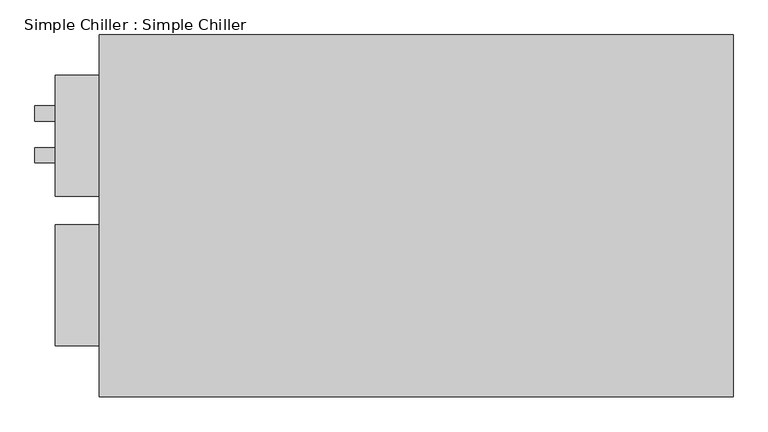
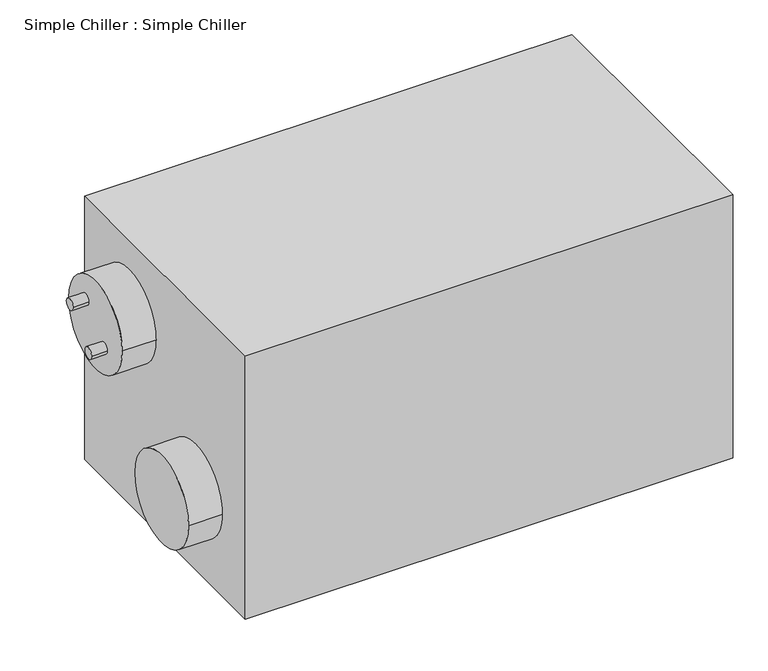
"""IFC4 building model written with IfcOpenShell, lengths in millimetres: proxy geometry, Simple Chiller : Simple Chiller."""

from ifc_helpers import new_model, si_unit, point, frame, frame_2d, origin, origin_with_axes, place, context, project, spatial, polyline, circle_curve, trimmed, segment, composite_curve, outline, extrude, source, transform, mapped, element, save


def simple_chiller_simple_chiller_1b9d3f8d(model_context):
    return source(origin(), model_context, "Body", "SweptSolid", [
        extrude(outline(composite_curve([segment(trimmed(circle_curve(frame_2d((477.2564063, 478.2147433)), 12.7), [point((464.5564063, 478.2147433))], [point((489.9564063, 478.2147433))], False, "CARTESIAN"), True, "CONTINUOUS"), segment(trimmed(circle_curve(frame_2d((477.2564063, 478.2147433)), 12.7), [point((489.9564063, 478.2147433))], [point((464.5564063, 478.2147433))], False, "CARTESIAN"), True, "CONTINUOUS")], self_intersect=False)), frame((-108.7138444, 0.0, 0.0), z_axis=(1.0, 0.0, 0.0), x_axis=(0.0, 1.0, 0.0)), (0.0, 0.0, 1.0), 34.5624514),
        extrude(outline(composite_curve([segment(trimmed(circle_curve(frame_2d((406.7838247, 407.7421617)), 12.7), [point((394.0838247, 407.7421617))], [point((419.4838247, 407.7421617))], False, "CARTESIAN"), True, "CONTINUOUS"), segment(trimmed(circle_curve(frame_2d((406.7838247, 407.7421617)), 12.7), [point((419.4838247, 407.7421617))], [point((394.0838247, 407.7421617))], False, "CARTESIAN"), True, "CONTINUOUS")], self_intersect=False)), frame((-108.7138444, 0.0, 0.0), z_axis=(1.0, 0.0, 0.0), x_axis=(0.0, 1.0, 0.0)), (0.0, 0.0, 1.0), 34.5624514),
        extrude(outline(composite_curve([segment(trimmed(circle_curve(frame_2d((439.7612903, 441.6803044)), 101.6), [point((338.1612903, 441.6803044))], [point((541.3612903, 441.6803044))], False, "CARTESIAN"), True, "CONTINUOUS"), segment(trimmed(circle_curve(frame_2d((439.7612903, 441.6803044)), 101.6), [point((541.3612903, 441.6803044))], [point((338.1612903, 441.6803044))], False, "CARTESIAN"), True, "CONTINUOUS")], self_intersect=False)), frame((-74.151393, 0.0, 0.0), z_axis=(1.0, 0.0, 0.0), x_axis=(0.0, 1.0, 0.0)), (0.0, 0.0, 1.0), 74.151393),
        extrude(outline(composite_curve([segment(trimmed(circle_curve(frame_2d((188.3141189, 190.233133)), 101.6), [point((86.7141189, 190.233133))], [point((289.9141189, 190.233133))], False, "CARTESIAN"), True, "CONTINUOUS"), segment(trimmed(circle_curve(frame_2d((188.3141189, 190.233133)), 101.6), [point((289.9141189, 190.233133))], [point((86.7141189, 190.233133))], False, "CARTESIAN"), True, "CONTINUOUS")], self_intersect=False)), frame((-74.151393, 0.0, 0.0), z_axis=(1.0, 0.0, 0.0), x_axis=(0.0, 1.0, 0.0)), (0.0, 0.0, 1.0), 74.151393),
        extrude(outline(polyline([(1066.8, 0.0), (0.0, 0.0), (0.0, 609.6), (1066.8, 609.6), (1066.8, 0.0)])), origin_with_axes(), (0.0, 0.0, 1.0), 609.6),
    ])


if __name__ == "__main__":
    model = new_model("IFC4")
    model_context = context("Model", 3, world=origin())
    ifc_project = project(units=[si_unit("LENGTHUNIT", "METRE", prefix="MILLI")], contexts=[model_context])
    site = spatial("IfcSite", under=ifc_project)
    building = spatial("IfcBuilding", under=site)
    placement = place(None, origin())
    simple_chiller_simple_chiller_shape = simple_chiller_simple_chiller_1b9d3f8d(model_context)
    element("IfcBuildingElementProxy", 1, Name="Simple Chiller : Simple Chiller", ObjectType="Simple Chiller : Simple Chiller", at=placement, inside=building, context=model_context, shape_type="MappedRepresentation", body=[
        mapped(simple_chiller_simple_chiller_shape, transform((0.0, 0.0, 0.0), x_axis=(1.0, 0.0, 0.0), y_axis=(0.0, 1.0, 0.0), z_axis=(0.0, 0.0, 1.0))),
    ])
    save(model, "model.ifc")
